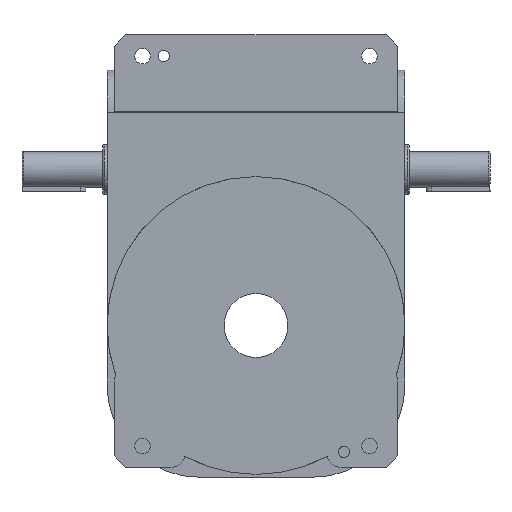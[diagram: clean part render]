
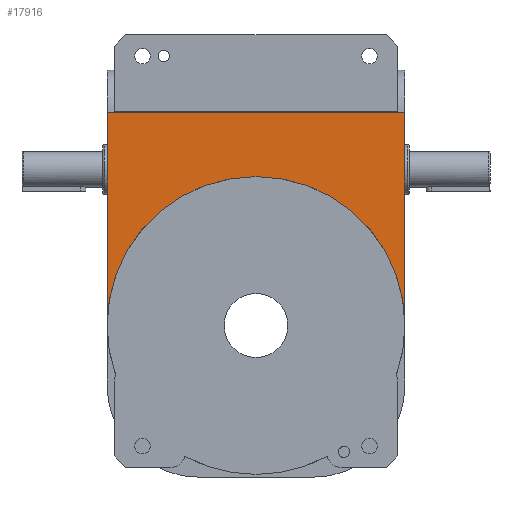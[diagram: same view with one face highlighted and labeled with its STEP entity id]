
A CAD part, front view. The second image highlights one B-rep face of the part: STEP entity #17916.
In plain terms, the highlighted planar face has unit normal (0, -1, 0).
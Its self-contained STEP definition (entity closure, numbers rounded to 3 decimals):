
#225 = CIRCLE ( 'NONE', #43637, 105. ) ;
#3255 = CARTESIAN_POINT ( 'NONE',  ( 105., -140., 110. ) ) ;
#4134 = CARTESIAN_POINT ( 'NONE',  ( 0., -140., 0. ) ) ;
#6239 = CARTESIAN_POINT ( 'NONE',  ( 105., -140., 150. ) ) ;
#8638 = ORIENTED_EDGE ( 'NONE', *, *, #41300, .F. ) ;
#8807 = DIRECTION ( 'NONE',  ( 0., 0., -1. ) ) ;
#9470 = DIRECTION ( 'NONE',  ( 0., 0., -1. ) ) ;
#9668 = DIRECTION ( 'NONE',  ( 0., 0., 1. ) ) ;
#13947 = VERTEX_POINT ( 'NONE', #6239 ) ;
#14204 = VECTOR ( 'NONE', #8807, 1000. ) ;
#14355 = ORIENTED_EDGE ( 'NONE', *, *, #54878, .F. ) ;
#15240 = CARTESIAN_POINT ( 'NONE',  ( 105., -140., 0. ) ) ;
#15509 = DIRECTION ( 'NONE',  ( 0., 1., 0. ) ) ;
#16395 = EDGE_CURVE ( 'NONE', #21876, #67067, #31682, .T. ) ;
#17002 = VECTOR ( 'NONE', #9470, 1000. ) ;
#17916 = ADVANCED_FACE ( 'NONE', ( #54460 ), #59327, .F. ) ;
#19594 = AXIS2_PLACEMENT_3D ( 'NONE', #48502, #15509, #54018 ) ;
#21144 = AXIS2_PLACEMENT_3D ( 'NONE', #58490, #25494, #64025 ) ;
#21876 = VERTEX_POINT ( 'NONE', #39460 ) ;
#23363 = DIRECTION ( 'NONE',  ( 1., 0., 0. ) ) ;
#25246 = EDGE_CURVE ( 'NONE', #30250, #41164, #43457, .T. ) ;
#25494 = DIRECTION ( 'NONE',  ( 0., -1., 0. ) ) ;
#25819 = CARTESIAN_POINT ( 'NONE',  ( -105., -140., 42. ) ) ;
#30250 = VERTEX_POINT ( 'NONE', #15240 ) ;
#31682 = LINE ( 'NONE', #25819, #17002 ) ;
#39460 = CARTESIAN_POINT ( 'NONE',  ( -105., -140., 150. ) ) ;
#41164 = VERTEX_POINT ( 'NONE', #45878 ) ;
#41280 = ORIENTED_EDGE ( 'NONE', *, *, #25246, .F. ) ;
#41300 = EDGE_CURVE ( 'NONE', #13947, #30250, #71028, .T. ) ;
#42642 = DIRECTION ( 'NONE',  ( 0., -1., 0. ) ) ;
#43457 = CIRCLE ( 'NONE', #21144, 105. ) ;
#43637 = AXIS2_PLACEMENT_3D ( 'NONE', #4134, #42642, #9668 ) ;
#45878 = CARTESIAN_POINT ( 'NONE',  ( 0., -140., 105. ) ) ;
#48502 = CARTESIAN_POINT ( 'NONE',  ( -105., -140., 110. ) ) ;
#49107 = CARTESIAN_POINT ( 'NONE',  ( -105., -140., 0. ) ) ;
#51033 = CARTESIAN_POINT ( 'NONE',  ( -105., -140., 150. ) ) ;
#54018 = DIRECTION ( 'NONE',  ( 0., 0., 1. ) ) ;
#54460 = FACE_OUTER_BOUND ( 'NONE', #69311, .T. ) ;
#54698 = ORIENTED_EDGE ( 'NONE', *, *, #16395, .T. ) ;
#54878 = EDGE_CURVE ( 'NONE', #21876, #13947, #59100, .T. ) ;
#56151 = EDGE_CURVE ( 'NONE', #41164, #67067, #225, .T. ) ;
#57375 = VECTOR ( 'NONE', #23363, 1000. ) ;
#58490 = CARTESIAN_POINT ( 'NONE',  ( 0., -140., 0. ) ) ;
#59100 = LINE ( 'NONE', #51033, #57375 ) ;
#59327 = PLANE ( 'NONE',  #19594 ) ;
#61302 = ORIENTED_EDGE ( 'NONE', *, *, #56151, .F. ) ;
#64025 = DIRECTION ( 'NONE',  ( 0., 0., 1. ) ) ;
#67067 = VERTEX_POINT ( 'NONE', #49107 ) ;
#69311 = EDGE_LOOP ( 'NONE', ( #14355, #54698, #61302, #41280, #8638 ) ) ;
#71028 = LINE ( 'NONE', #3255, #14204 ) ;
